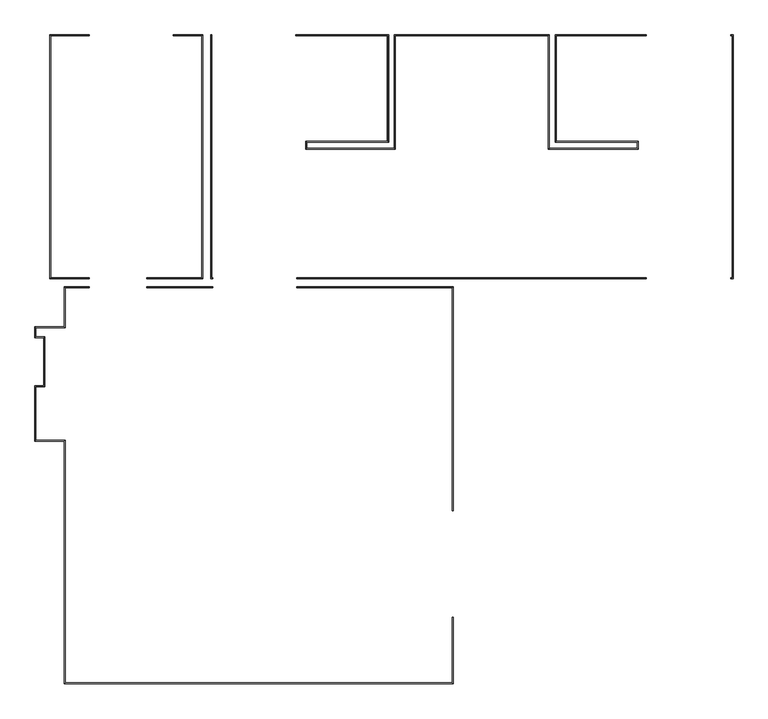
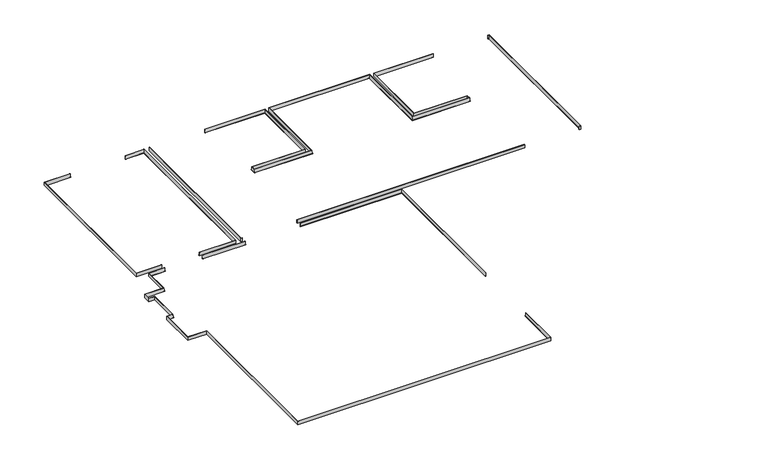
"""IFC4 building model written with IfcOpenShell, lengths in millimetres: furniture geometry, BIMHealth-Cath_Lab-Skirting-LOD2A-v1 : BIMHealth-Cath_Lab-Skirting-LOD2A-v1."""

from ifc_helpers import new_model, si_unit, point, frame, frame_2d, origin, place, context, project, spatial, polyline, circle_curve, ellipse_curve, trimmed, segment, composite_curve, outline, extrude, source, transform, mapped, element, save
from ifc_brep_helpers import plane_surface, revolved_surface, advanced_brep


def furniture_e14fffc2(model_context):
    return source(origin(), model_context, "Body", "SolidModel", [
        extrude(outline(composite_curve([segment(polyline([(1957.9157012, 100.0), (1957.9157012, 0.0), (1937.9157012, 0.0), (1937.9157012, 5.0)]), True, "CONTINUOUS"), segment(trimmed(circle_curve(frame_2d((1706.8593155, 90.1667977)), 246.2527905), [point((1937.9157012, 5.0))], [point((1952.9157012, 100.0))], True, "CARTESIAN"), True, "CONTINUOUS"), segment(polyline([(1952.9157012, 100.0), (1957.9157012, 100.0)]), True, "CONTINUOUS")], self_intersect=False)), frame((-4187.3290413, 0.0, 0.0), z_axis=(1.0, 0.0, 0.0), x_axis=(0.0, 1.0, 0.0)), (0.0, 0.0, 1.0), 1239.7999718),
        advanced_brep(
        [(1567.4707298, -4243.7053034, 100.0), (1567.4707298, -4243.7053034, 0.0), (1547.4707298, -4243.7053034, 0.0), (1547.4707298, -4243.7053034, 5.0), (1562.4707298, -4243.7053034, 100.0), (1562.4707298, -5487.0843802, 100.0), (-5727.3290413, -5487.0843802, 100.0), (-5727.3290413, -937.0833362, 100.0), (-6277.5290696, -937.0833362, 100.0), (-6277.5290696, 92.7162123, 100.0), (-6109.5290696, 92.7162123, 100.0), (-6109.5290696, 1002.7162123, 100.0), (-6277.5290696, 1002.7162123, 100.0), (-6277.5290696, 1202.7162123, 100.0), (-5727.3290413, 1202.7162123, 100.0), (-5727.3290413, 1952.9157012, 100.0), (-5267.3290413, 1952.9157012, 100.0), (-5267.3290413, 1957.9157012, 100.0), (-5732.3290413, 1957.9157012, 100.0), (-5732.3290413, 1207.7162123, 100.0), (-6282.5290696, 1207.7162123, 100.0), (-6282.5290696, 997.7162123, 100.0), (-6114.5290696, 997.7162123, 100.0), (-6114.5290696, 97.7162123, 100.0), (-6282.5290696, 97.7162123, 100.0), (-6282.5290696, -942.0833362, 100.0), (-5732.3290413, -942.0833362, 100.0), (-5732.3290413, -5492.0843802, 100.0), (1567.4707298, -5492.0843802, 100.0), (1547.4707298, -5472.0843802, 5.0), (1547.4707298, -5472.0843802, 0.0), (1567.4707298, -5492.0843802, 0.0), (-5732.3290413, -5492.0843802, 0.0), (-5732.3290413, -942.0833362, 0.0), (-6282.5290696, -942.0833362, 0.0), (-6282.5290696, 97.7162123, 0.0), (-6114.5290696, 97.7162123, 0.0), (-6114.5290696, 997.7162123, 0.0), (-6282.5290696, 997.7162123, 0.0), (-6282.5290696, 1207.7162123, 0.0), (-5732.3290413, 1207.7162123, 0.0), (-5732.3290413, 1957.9157012, 0.0), (-5267.3290413, 1957.9157012, 0.0), (-5267.3290413, 1937.9157012, 0.0), (-5712.3290413, 1937.9157012, 0.0), (-5712.3290413, 1187.7162123, 0.0), (-6262.5290696, 1187.7162123, 0.0), (-6262.5290696, 1017.7162123, 0.0), (-6094.5290696, 1017.7162123, 0.0), (-6094.5290696, 77.7162123, 0.0), (-6262.5290696, 77.7162123, 0.0), (-6262.5290696, -922.0833362, 0.0), (-5712.3290413, -922.0833362, 0.0), (-5712.3290413, -5472.0843802, 0.0), (-5712.3290413, -5472.0843802, 5.0), (-5712.3290413, -922.0833362, 5.0), (-6262.5290696, -922.0833362, 5.0), (-6262.5290696, 77.7162123, 5.0), (-6094.5290696, 77.7162123, 5.0), (-6094.5290696, 1017.7162123, 5.0), (-6262.5290696, 1017.7162123, 5.0), (-6262.5290696, 1187.7162123, 5.0), (-5712.3290413, 1187.7162123, 5.0), (-5712.3290413, 1937.9157012, 5.0), (-5267.3290413, 1937.9157012, 5.0)],
        [
            (0, 1),
            (1, 2),
            (2, 3),
            (3, 4, circle_curve(frame((1316.4143441, -4243.7053034, 90.1667977), z_axis=(0.0, -1.0, 0.0), x_axis=(-1.0, 0.0, 0.0)), 246.2527905)),
            (4, 0),
            (4, 5),
            (5, 6),
            (6, 7),
            (7, 8),
            (8, 9),
            (9, 10),
            (10, 11),
            (11, 12),
            (12, 13),
            (13, 14),
            (14, 15),
            (15, 16),
            (16, 17),
            (17, 18),
            (18, 19),
            (19, 20),
            (20, 21),
            (21, 22),
            (22, 23),
            (23, 24),
            (24, 25),
            (25, 26),
            (26, 27),
            (27, 28),
            (28, 0),
            (3, 29),
            (29, 5, ellipse_curve(frame((1316.4143441, -5241.0279945, 90.1667977), z_axis=(-0.7071067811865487, -0.7071067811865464, 0.0), x_axis=(0.7071067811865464, -0.7071067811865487, 0.0)), 348.2540361, 246.2527905)),
            (2, 30),
            (30, 29),
            (1, 31),
            (31, 32),
            (32, 33),
            (33, 34),
            (34, 35),
            (35, 36),
            (36, 37),
            (37, 38),
            (38, 39),
            (39, 40),
            (40, 41),
            (41, 42),
            (42, 43),
            (43, 44),
            (44, 45),
            (45, 46),
            (46, 47),
            (47, 48),
            (48, 49),
            (49, 50),
            (50, 51),
            (51, 52),
            (52, 53),
            (53, 30),
            (28, 31),
            (29, 54),
            (54, 6, ellipse_curve(frame((-5481.2726556, -5241.0279945, 90.1667977), z_axis=(-0.7071067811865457, 0.7071067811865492, 0.0), x_axis=(-0.7071067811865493, -0.7071067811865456, 0.0)), 348.2540361, 246.2527905)),
            (53, 54),
            (27, 32),
            (54, 55),
            (55, 7, ellipse_curve(frame((-5481.2726556, -691.0269505, 90.1667977), z_axis=(-0.7071067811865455, 0.7071067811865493, 0.0), x_axis=(0.7071067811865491, 0.7071067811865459, 0.0)), 348.2540361, 246.2527905)),
            (52, 55),
            (26, 33),
            (55, 56),
            (56, 8, ellipse_curve(frame((-6031.4726838, -691.0269505, 90.1667977), z_axis=(-0.7071067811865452, 0.7071067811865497, 0.0), x_axis=(-0.7071067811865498, -0.7071067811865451, 0.0)), 348.2540361, 246.2527905)),
            (51, 56),
            (25, 34),
            (56, 57),
            (57, 9, ellipse_curve(frame((-6031.4726838, -153.3401734, 90.1667977), z_axis=(0.7071067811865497, 0.7071067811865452, 0.0), x_axis=(-0.7071067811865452, 0.7071067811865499, 0.0)), 348.2540361, 246.2527905)),
            (50, 57),
            (24, 35),
            (57, 58),
            (58, 10, ellipse_curve(frame((-5863.4726838, -153.3401734, 90.1667977), z_axis=(0.7071067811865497, 0.7071067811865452, 0.0), x_axis=(0.7071067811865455, -0.7071067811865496, 0.0)), 348.2540361, 246.2527905)),
            (49, 58),
            (23, 36),
            (58, 59),
            (59, 11, ellipse_curve(frame((-5863.4726838, 1248.772598, 90.1667977), z_axis=(-0.7071067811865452, 0.7071067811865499, 0.0), x_axis=(0.7071067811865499, 0.7071067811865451, 0.0)), 348.2540361, 246.2527905)),
            (48, 59),
            (22, 37),
            (59, 60),
            (60, 12, ellipse_curve(frame((-6031.4726838, 1248.772598, 90.1667977), z_axis=(-0.707106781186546, 0.7071067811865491, 0.0), x_axis=(-0.7071067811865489, -0.7071067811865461, 0.0)), 348.2540361, 246.2527905)),
            (47, 60),
            (21, 38),
            (60, 61),
            (61, 13, ellipse_curve(frame((-6031.4726838, 956.6598266, 90.1667977), z_axis=(0.707106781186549, 0.707106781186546, 0.0), x_axis=(-0.707106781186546, 0.707106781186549, 0.0)), 348.2540361, 246.2527905)),
            (46, 61),
            (20, 39),
            (61, 62),
            (62, 14, ellipse_curve(frame((-5481.2726556, 956.6598266, 90.1667977), z_axis=(0.7071067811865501, 0.7071067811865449, 0.0), x_axis=(0.7071067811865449, -0.70710678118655, 0.0)), 348.2540361, 246.2527905)),
            (45, 62),
            (19, 40),
            (62, 63),
            (63, 15, ellipse_curve(frame((-5481.2726556, 1706.8593155, 90.1667977), z_axis=(0.7071067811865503, 0.7071067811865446, 0.0), x_axis=(-0.7071067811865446, 0.7071067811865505, 0.0)), 348.2540361, 246.2527905)),
            (44, 63),
            (18, 41),
            (16, 64, circle_curve(frame((-5267.3290413, 1706.8593155, 90.1667977), z_axis=(-1.0, 0.0, 0.0), x_axis=(0.0, -1.0, 0.0)), 246.2527905)),
            (64, 43),
            (42, 17),
            (63, 64),
        ],
        [
            plane_surface(frame((1567.4707298, -4243.7053034, 0.0), z_axis=(0.0, 1.0, 0.0), x_axis=(0.0, 0.0, 1.0))),
            plane_surface(frame((1562.4707298, -4243.7053034, 100.0), z_axis=(0.0, 0.0, 1.0), x_axis=(0.0, -1.0, 0.0))),
            revolved_surface(polyline([(1070.1615536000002, -5487.280785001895, 90.1667977), (1070.1615536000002, -4243.7053034, 90.1667977)]), (1316.4143441, -4243.7053034, 90.1667977), (0.0, -1.0, 0.0)),
            plane_surface(frame((1547.4707298, -4243.7053034, 0.0), z_axis=(-1.0, 0.0, 0.0), x_axis=(0.0, -1.0, 0.0))),
            plane_surface(frame((1567.4707298, -4243.7053034, 0.0), z_axis=(0.0, 0.0, -1.0), x_axis=(0.0, -1.0, 0.0))),
            plane_surface(frame((1567.4707298, -4243.7053034, 100.0), z_axis=(1.0, 0.0, 0.0), x_axis=(0.0, -1.0, 0.0))),
            revolved_surface(polyline([(-5727.525446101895, -4994.7752040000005, 90.1667977), (1562.6671346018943, -4994.7752040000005, 90.1667977)]), (1567.4707298, -5241.0279945, 90.1667977), (-1.0, 0.0, 0.0)),
            plane_surface(frame((1547.4707298, -5472.0843802, 0.0), z_axis=(0.0, 1.0, 0.0), x_axis=(-1.0, 0.0, 0.0))),
            plane_surface(frame((1567.4707298, -5492.0843802, 100.0), z_axis=(0.0, -1.0, 0.0), x_axis=(-1.0, 0.0, 0.0))),
            revolved_surface(polyline([(-5235.0198651, -444.77415999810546, 90.1667977), (-5235.0198651, -5487.280785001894, 90.1667977)]), (-5481.2726556, -5492.0843802, 90.1667977), (0.0, 1.0, 0.0)),
            plane_surface(frame((-5712.3290413, -5472.0843802, 0.0), z_axis=(1.0, 0.0, 0.0), x_axis=(0.0, 1.0, 0.0))),
            plane_surface(frame((-5732.3290413, -5492.0843802, 100.0), z_axis=(-1.0, 0.0, 0.0), x_axis=(0.0, 1.0, 0.0))),
            revolved_surface(polyline([(-6277.725474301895, -444.77416, 90.1667977), (-5235.019865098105, -444.77416, 90.1667977)]), (-5732.3290413, -691.0269505, 90.1667977), (-1.0, 0.0, 0.0)),
            plane_surface(frame((-5712.3290413, -922.0833362, 0.0), z_axis=(0.0, 1.0, 0.0), x_axis=(-1.0, 0.0, 0.0))),
            plane_surface(frame((-5732.3290413, -942.0833362, 100.0), z_axis=(0.0, -1.0, 0.0), x_axis=(-1.0, 0.0, 0.0))),
            revolved_surface(polyline([(-5785.2198933, 92.91261710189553, 90.1667977), (-5785.2198933, -937.2797410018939, 90.1667977)]), (-6031.4726838, -942.0833362, 90.1667977), (0.0, 1.0, 0.0)),
            plane_surface(frame((-6262.5290696, -922.0833362, 0.0), z_axis=(1.0, 0.0, 0.0), x_axis=(0.0, 1.0, 0.0))),
            plane_surface(frame((-6282.5290696, -942.0833362, 100.0), z_axis=(-1.0, 0.0, 0.0), x_axis=(0.0, 1.0, 0.0))),
            revolved_surface(polyline([(-5617.2198932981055, -399.5929639, 90.1667977), (-6277.725474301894, -399.5929639, 90.1667977)]), (-6282.5290696, -153.3401734, 90.1667977), (1.0, 0.0, 0.0)),
            plane_surface(frame((-6262.5290696, 77.7162123, 0.0), z_axis=(0.0, -1.0, 0.0), x_axis=(1.0, 0.0, 0.0))),
            plane_surface(frame((-6282.5290696, 97.7162123, 100.0), z_axis=(0.0, 1.0, 0.0), x_axis=(1.0, 0.0, 0.0))),
            revolved_surface(polyline([(-5617.2198933, 1495.025388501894, 90.1667977), (-5617.2198933, -399.5929639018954, 90.1667977)]), (-5863.4726838, 97.7162123, 90.1667977), (0.0, 1.0, 0.0)),
            plane_surface(frame((-6094.5290696, 77.7162123, 0.0), z_axis=(1.0, 0.0, 0.0), x_axis=(0.0, 1.0, 0.0))),
            plane_surface(frame((-6114.5290696, 97.7162123, 100.0), z_axis=(-1.0, 0.0, 0.0), x_axis=(0.0, 1.0, 0.0))),
            revolved_surface(polyline([(-6277.725474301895, 1495.0253885, 90.1667977), (-5617.219893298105, 1495.0253885, 90.1667977)]), (-6114.5290696, 1248.772598, 90.1667977), (-1.0, 0.0, 0.0)),
            plane_surface(frame((-6094.5290696, 1017.7162123, 0.0), z_axis=(0.0, 1.0, 0.0), x_axis=(-1.0, 0.0, 0.0))),
            plane_surface(frame((-6114.5290696, 997.7162123, 100.0), z_axis=(0.0, -1.0, 0.0), x_axis=(-1.0, 0.0, 0.0))),
            revolved_surface(polyline([(-5785.2198933, 1495.0253885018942, 90.1667977), (-5785.2198933, 710.4070360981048, 90.1667977)]), (-6031.4726838, 997.7162123, 90.1667977), (0.0, 1.0, 0.0)),
            plane_surface(frame((-6262.5290696, 1017.7162123, 0.0), z_axis=(1.0, 0.0, 0.0), x_axis=(0.0, 1.0, 0.0))),
            plane_surface(frame((-6282.5290696, 997.7162123, 100.0), z_axis=(-1.0, 0.0, 0.0), x_axis=(0.0, 1.0, 0.0))),
            revolved_surface(polyline([(-5235.019865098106, 710.4070360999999, 90.1667977), (-6277.725474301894, 710.4070360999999, 90.1667977)]), (-6282.5290696, 956.6598266, 90.1667977), (1.0, 0.0, 0.0)),
            plane_surface(frame((-6262.5290696, 1187.7162123, 0.0), z_axis=(0.0, -1.0, 0.0), x_axis=(1.0, 0.0, 0.0))),
            plane_surface(frame((-6282.5290696, 1207.7162123, 100.0), z_axis=(0.0, 1.0, 0.0), x_axis=(1.0, 0.0, 0.0))),
            revolved_surface(polyline([(-5235.0198651, 1953.1121060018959, 90.1667977), (-5235.0198651, 710.4070360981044, 90.1667977)]), (-5481.2726556, 1207.7162123, 90.1667977), (0.0, 1.0, 0.0)),
            plane_surface(frame((-5712.3290413, 1187.7162123, 0.0), z_axis=(1.0, 0.0, 0.0), x_axis=(0.0, 1.0, 0.0))),
            plane_surface(frame((-5732.3290413, 1207.7162123, 100.0), z_axis=(-1.0, 0.0, 0.0), x_axis=(0.0, 1.0, 0.0))),
            plane_surface(frame((-5267.3290413, 1957.9157012, 0.0), z_axis=(1.0, 0.0, 0.0), x_axis=(0.0, 0.0, 1.0))),
            revolved_surface(polyline([(-5235.019865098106, 1460.6065250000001, 90.1667977), (-5727.525446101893, 1460.6065250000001, 90.1667977)]), (-5732.3290413, 1706.8593155, 90.1667977), (1.0, 0.0, 0.0)),
            plane_surface(frame((-5712.3290413, 1937.9157012, 0.0), z_axis=(0.0, -1.0, 0.0), x_axis=(1.0, 0.0, 0.0))),
            plane_surface(frame((-5732.3290413, 1957.9157012, 100.0), z_axis=(0.0, 1.0, 0.0), x_axis=(1.0, 0.0, 0.0))),
        ],
        [
            (0, [[1, 2, 3, 4, 5]]),
            (1, [[-5, 6, 7, 8, 9, 10, 11, 12, 13, 14, 15, 16, 17, 18, 19, 20, 21, 22, 23, 24, 25, 26, 27, 28, 29, 30]]),
            (2, [[-4, 31, 32, -6]]),
            (3, [[-3, 33, 34, -31]]),
            (4, [[-2, 35, 36, 37, 38, 39, 40, 41, 42, 43, 44, 45, 46, 47, 48, 49, 50, 51, 52, 53, 54, 55, 56, 57, 58, -33]]),
            (5, [[-1, -30, 59, -35]]),
            (6, [[-32, 60, 61, -7]]),
            (7, [[-34, -58, 62, -60]]),
            (8, [[-59, -29, 63, -36]]),
            (9, [[-61, 64, 65, -8]]),
            (10, [[-62, -57, 66, -64]]),
            (11, [[-63, -28, 67, -37]]),
            (12, [[-65, 68, 69, -9]]),
            (13, [[-66, -56, 70, -68]]),
            (14, [[-67, -27, 71, -38]]),
            (15, [[-69, 72, 73, -10]]),
            (16, [[-70, -55, 74, -72]]),
            (17, [[-71, -26, 75, -39]]),
            (18, [[-73, 76, 77, -11]]),
            (19, [[-74, -54, 78, -76]]),
            (20, [[-75, -25, 79, -40]]),
            (21, [[-77, 80, 81, -12]]),
            (22, [[-78, -53, 82, -80]]),
            (23, [[-79, -24, 83, -41]]),
            (24, [[-81, 84, 85, -13]]),
            (25, [[-82, -52, 86, -84]]),
            (26, [[-83, -23, 87, -42]]),
            (27, [[-85, 88, 89, -14]]),
            (28, [[-86, -51, 90, -88]]),
            (29, [[-87, -22, 91, -43]]),
            (30, [[-89, 92, 93, -15]]),
            (31, [[-90, -50, 94, -92]]),
            (32, [[-91, -21, 95, -44]]),
            (33, [[-93, 96, 97, -16]]),
            (34, [[-94, -49, 98, -96]]),
            (35, [[-95, -20, 99, -45]]),
            (36, [[-18, 100, 101, -47, 102]]),
            (37, [[-97, 103, -100, -17]]),
            (38, [[-98, -48, -101, -103]]),
            (39, [[-99, -19, -102, -46]]),
        ],
    ),
        advanced_brep(
        [(-1367.5290696, 1957.9157012, 100.0), (-1367.5290696, 1957.9157012, 0.0), (-1367.5290696, 1937.9157012, 0.0), (-1367.5290696, 1937.9157012, 5.0), (-1367.5290696, 1952.9157012, 100.0), (1562.4709304, 1952.9157012, 100.0), (1562.4709304, -2242.0837971, 100.0), (1567.4709304, -2242.0837971, 100.0), (1567.4709304, 1957.9157012, 100.0), (1547.4709304, 1937.9157012, 5.0), (1547.4709304, 1937.9157012, 0.0), (1567.4709304, 1957.9157012, 0.0), (1567.4709304, -2242.0837971, 0.0), (1547.4709304, -2242.0837971, 0.0), (1547.4709304, -2242.0837971, 5.0)],
        [
            (0, 1),
            (1, 2),
            (2, 3),
            (3, 4, circle_curve(frame((-1367.5290696, 1706.8593155, 90.1667977), z_axis=(1.0, 0.0, 0.0), x_axis=(0.0, -1.0, 0.0)), 246.2527905)),
            (4, 0),
            (4, 5),
            (5, 6),
            (6, 7),
            (7, 8),
            (8, 0),
            (3, 9),
            (9, 5, ellipse_curve(frame((1316.4145447, 1706.8593155, 90.1667977), z_axis=(0.7071067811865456, -0.7071067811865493, 0.0), x_axis=(0.7071067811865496, 0.7071067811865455, 0.0)), 348.2540361, 246.2527905)),
            (2, 10),
            (10, 9),
            (1, 11),
            (11, 12),
            (12, 13),
            (13, 10),
            (8, 11),
            (6, 14, circle_curve(frame((1316.4145447, -2242.0837971, 90.1667977), z_axis=(0.0, 1.0, 0.0), x_axis=(-1.0, 0.0, 0.0)), 246.2527905)),
            (14, 13),
            (12, 7),
            (9, 14),
        ],
        [
            plane_surface(frame((-1367.5290696, 1957.9157012, 0.0), z_axis=(-1.0, 0.0, 0.0), x_axis=(0.0, 0.0, 1.0))),
            plane_surface(frame((-1367.5290696, 1952.9157012, 100.0), z_axis=(0.0, 0.0, 1.0), x_axis=(1.0, 0.0, 0.0))),
            revolved_surface(polyline([(1562.6673352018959, 1460.6065250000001, 90.1667977), (-1367.5290696, 1460.6065250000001, 90.1667977)]), (-1367.5290696, 1706.8593155, 90.1667977), (1.0, 0.0, 0.0)),
            plane_surface(frame((-1367.5290696, 1937.9157012, 0.0), z_axis=(0.0, -1.0, 0.0), x_axis=(1.0, 0.0, 0.0))),
            plane_surface(frame((-1367.5290696, 1957.9157012, 0.0), z_axis=(0.0, 0.0, -1.0), x_axis=(1.0, 0.0, 0.0))),
            plane_surface(frame((-1367.5290696, 1957.9157012, 100.0), z_axis=(0.0, 1.0, 0.0), x_axis=(1.0, 0.0, 0.0))),
            plane_surface(frame((1567.4709304, -2242.0837971, 0.0), z_axis=(0.0, -1.0, 0.0), x_axis=(0.0, 0.0, 1.0))),
            revolved_surface(polyline([(1070.1617542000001, -2242.0837970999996, 90.1667977), (1070.1617542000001, 1953.112106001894, 90.1667977)]), (1316.4145447, 1957.9157012, 90.1667977), (0.0, -1.0, 0.0)),
            plane_surface(frame((1547.4709304, 1937.9157012, 0.0), z_axis=(-1.0, 0.0, 0.0), x_axis=(0.0, -1.0, 0.0))),
            plane_surface(frame((1567.4709304, 1957.9157012, 100.0), z_axis=(1.0, 0.0, 0.0), x_axis=(0.0, -1.0, 0.0))),
        ],
        [
            (0, [[1, 2, 3, 4, 5]]),
            (1, [[-5, 6, 7, 8, 9, 10]]),
            (2, [[-4, 11, 12, -6]]),
            (3, [[-3, 13, 14, -11]]),
            (4, [[-2, 15, 16, 17, 18, -13]]),
            (5, [[-1, -10, 19, -15]]),
            (6, [[-8, 20, 21, -17, 22]]),
            (7, [[-12, 23, -20, -7]]),
            (8, [[-14, -18, -21, -23]]),
            (9, [[-19, -9, -22, -16]]),
        ],
    ),
        extrude(outline(composite_curve([segment(polyline([(2107.9157012, 100.0), (2112.9157012, 100.0)]), True, "CONTINUOUS"), segment(trimmed(circle_curve(frame_2d((2358.9720869, 90.1667977)), 246.2527905), [point((2112.9157012, 100.0))], [point((2127.9157012, 5.0))], True, "CARTESIAN"), True, "CONTINUOUS"), segment(polyline([(2127.9157012, 5.0), (2127.9157012, 0.0), (2107.9157012, 0.0), (2107.9157012, 100.0)]), True, "CONTINUOUS")], self_intersect=False)), frame((-1367.5290696, 0.0, 0.0), z_axis=(1.0, 0.0, 0.0), x_axis=(0.0, 1.0, 0.0)), (0.0, 0.0, 1.0), 6560.0),
        advanced_brep(
        [(6772.4709304, 6682.9160366, 100.0), (6772.4709304, 6682.9160366, 0.0), (6772.4709304, 6662.9160366, 0.0), (6772.4709304, 6662.9160366, 5.0), (6772.4709304, 6677.9160366, 100.0), (6812.4709304, 6677.9160366, 100.0), (6812.4709304, 2112.9157012, 100.0), (6772.4709304, 2112.9157012, 100.0), (6772.4709304, 2107.9157012, 100.0), (6817.4709304, 2107.9157012, 100.0), (6817.4709304, 6682.9160366, 100.0), (6797.4709304, 6662.9160366, 5.0), (6797.4709304, 6662.9160366, 0.0), (6817.4709304, 6682.9160366, 0.0), (6817.4709304, 2107.9157012, 0.0), (6772.4709304, 2107.9157012, 0.0), (6772.4709304, 2127.9157012, 0.0), (6797.4709304, 2127.9157012, 0.0), (6797.4709304, 2127.9157012, 5.0), (6772.4709304, 2127.9157012, 5.0)],
        [
            (0, 1),
            (1, 2),
            (2, 3),
            (3, 4, circle_curve(frame((6772.4709304, 6431.8596509, 90.1667977), z_axis=(1.0, 0.0, 0.0), x_axis=(0.0, -1.0, 0.0)), 246.2527905)),
            (4, 0),
            (4, 5),
            (5, 6),
            (6, 7),
            (7, 8),
            (8, 9),
            (9, 10),
            (10, 0),
            (3, 11),
            (11, 5, ellipse_curve(frame((6566.4145447, 6431.8596509, 90.1667977), z_axis=(0.7071067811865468, -0.7071067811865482, 0.0), x_axis=(0.7071067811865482, 0.7071067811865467, 0.0)), 348.2540361, 246.2527905)),
            (2, 12),
            (12, 11),
            (1, 13),
            (13, 14),
            (14, 15),
            (15, 16),
            (16, 17),
            (17, 12),
            (10, 13),
            (11, 18),
            (18, 6, ellipse_curve(frame((6566.4145447, 2358.9720869, 90.1667977), z_axis=(-0.7071067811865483, -0.7071067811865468, 0.0), x_axis=(0.7071067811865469, -0.7071067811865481, 0.0)), 348.2540361, 246.2527905)),
            (17, 18),
            (9, 14),
            (7, 19, circle_curve(frame((6772.4709304, 2358.9720869, 90.1667977), z_axis=(1.0, 0.0, 0.0), x_axis=(0.0, 1.0, 0.0)), 246.2527905)),
            (19, 16),
            (15, 8),
            (18, 19),
        ],
        [
            plane_surface(frame((6772.4709304, 6682.9160366, 0.0), z_axis=(-1.0, 0.0, 0.0), x_axis=(0.0, 0.0, 1.0))),
            plane_surface(frame((6772.4709304, 6677.9160366, 100.0), z_axis=(0.0, 0.0, 1.0), x_axis=(1.0, 0.0, 0.0))),
            revolved_surface(polyline([(6812.667335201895, 6185.6068604, 90.1667977), (6320.161754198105, 6185.6068604, 90.1667977)]), (6772.4709304, 6431.8596509, 90.1667977), (1.0, 0.0, 0.0)),
            plane_surface(frame((6772.4709304, 6662.9160366, 0.0), z_axis=(0.0, -1.0, 0.0), x_axis=(1.0, 0.0, 0.0))),
            plane_surface(frame((6772.4709304, 6682.9160366, 0.0), z_axis=(0.0, 0.0, -1.0), x_axis=(1.0, 0.0, 0.0))),
            plane_surface(frame((6772.4709304, 6682.9160366, 100.0), z_axis=(0.0, 1.0, 0.0), x_axis=(1.0, 0.0, 0.0))),
            revolved_surface(polyline([(6320.1617542, 2112.7192963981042, 90.1667977), (6320.1617542, 6678.112441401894, 90.1667977)]), (6566.4145447, 6682.9160366, 90.1667977), (0.0, -1.0, 0.0)),
            plane_surface(frame((6797.4709304, 6662.9160366, 0.0), z_axis=(-1.0, 0.0, 0.0), x_axis=(0.0, -1.0, 0.0))),
            plane_surface(frame((6817.4709304, 6682.9160366, 100.0), z_axis=(1.0, 0.0, 0.0), x_axis=(0.0, -1.0, 0.0))),
            plane_surface(frame((6772.4709304, 2107.9157012, 0.0), z_axis=(-1.0, 0.0, 0.0), x_axis=(0.0, 0.0, 1.0))),
            revolved_surface(polyline([(6320.161754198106, 2605.2248774, 90.1667977), (6812.667335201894, 2605.2248774, 90.1667977)]), (6817.4709304, 2358.9720869, 90.1667977), (-1.0, 0.0, 0.0)),
            plane_surface(frame((6797.4709304, 2127.9157012, 0.0), z_axis=(0.0, 1.0, 0.0), x_axis=(-1.0, 0.0, 0.0))),
            plane_surface(frame((6817.4709304, 2107.9157012, 100.0), z_axis=(0.0, -1.0, 0.0), x_axis=(-1.0, 0.0, 0.0))),
        ],
        [
            (0, [[1, 2, 3, 4, 5]]),
            (1, [[-5, 6, 7, 8, 9, 10, 11, 12]]),
            (2, [[-4, 13, 14, -6]]),
            (3, [[-3, 15, 16, -13]]),
            (4, [[-2, 17, 18, 19, 20, 21, 22, -15]]),
            (5, [[-1, -12, 23, -17]]),
            (6, [[-14, 24, 25, -7]]),
            (7, [[-16, -22, 26, -24]]),
            (8, [[-23, -11, 27, -18]]),
            (9, [[-9, 28, 29, -20, 30]]),
            (10, [[-25, 31, -28, -8]]),
            (11, [[-26, -21, -29, -31]]),
            (12, [[-27, -10, -30, -19]]),
        ],
    ),
        advanced_brep(
        [(-1392.5287581, 6682.9160366, 100.0), (-1392.5287581, 6682.9160366, 0.0), (-1392.5287581, 6662.9160366, 0.0), (-1392.5287581, 6662.9160366, 5.0), (-1392.5287581, 6677.9160366, 100.0), (347.4712419, 6677.9160366, 100.0), (347.4712419, 4672.9131778, 100.0), (-1187.5290696, 4672.9131778, 100.0), (-1187.5290696, 4552.9131778, 100.0), (467.4712419, 4552.9131778, 100.0), (467.4712419, 6677.9160366, 100.0), (3367.470619, 6677.9160366, 100.0), (3367.470619, 4552.9131778, 100.0), (5022.4709304, 4552.9131778, 100.0), (5022.4709304, 4672.9131778, 100.0), (3487.470619, 4672.9131778, 100.0), (3487.470619, 6677.9160366, 100.0), (5192.4709304, 6677.9160366, 100.0), (5192.4709304, 6682.9160366, 100.0), (3482.470619, 6682.9160366, 100.0), (3482.470619, 4667.9131778, 100.0), (5017.4709304, 4667.9131778, 100.0), (5017.4709304, 4557.9131778, 100.0), (3372.470619, 4557.9131778, 100.0), (3372.470619, 6682.9160366, 100.0), (462.4712419, 6682.9160366, 100.0), (462.4712419, 4557.9131778, 100.0), (-1182.5290696, 4557.9131778, 100.0), (-1182.5290696, 4667.9131778, 100.0), (352.4712419, 4667.9131778, 100.0), (352.4712419, 6682.9160366, 100.0), (332.4712419, 6662.9160366, 5.0), (332.4712419, 6662.9160366, 0.0), (352.4712419, 6682.9160366, 0.0), (352.4712419, 4667.9131778, 0.0), (-1182.5290696, 4667.9131778, 0.0), (-1182.5290696, 4557.9131778, 0.0), (462.4712419, 4557.9131778, 0.0), (462.4712419, 6682.9160366, 0.0), (3372.470619, 6682.9160366, 0.0), (3372.470619, 4557.9131778, 0.0), (5017.4709304, 4557.9131778, 0.0), (5017.4709304, 4667.9131778, 0.0), (3482.470619, 4667.9131778, 0.0), (3482.470619, 6682.9160366, 0.0), (5192.4709304, 6682.9160366, 0.0), (5192.4709304, 6662.9160366, 0.0), (3502.470619, 6662.9160366, 0.0), (3502.470619, 4687.9131778, 0.0), (5037.4709304, 4687.9131778, 0.0), (5037.4709304, 4537.9131778, 0.0), (3352.470619, 4537.9131778, 0.0), (3352.470619, 6662.9160366, 0.0), (482.4712419, 6662.9160366, 0.0), (482.4712419, 4537.9131778, 0.0), (-1202.5290696, 4537.9131778, 0.0), (-1202.5290696, 4687.9131778, 0.0), (332.4712419, 4687.9131778, 0.0), (332.4712419, 4687.9131778, 5.0), (-1202.5290696, 4687.9131778, 5.0), (-1202.5290696, 4537.9131778, 5.0), (482.4712419, 4537.9131778, 5.0), (482.4712419, 6662.9160366, 5.0), (3352.470619, 6662.9160366, 5.0), (3352.470619, 4537.9131778, 5.0), (5037.4709304, 4537.9131778, 5.0), (5037.4709304, 4687.9131778, 5.0), (3502.470619, 4687.9131778, 5.0), (3502.470619, 6662.9160366, 5.0), (5192.4709304, 6662.9160366, 5.0)],
        [
            (0, 1),
            (1, 2),
            (2, 3),
            (3, 4, circle_curve(frame((-1392.5287581, 6431.8596509, 90.1667977), z_axis=(1.0, 0.0, 0.0), x_axis=(0.0, -1.0, 0.0)), 246.2527905)),
            (4, 0),
            (4, 5),
            (5, 6),
            (6, 7),
            (7, 8),
            (8, 9),
            (9, 10),
            (10, 11),
            (11, 12),
            (12, 13),
            (13, 14),
            (14, 15),
            (15, 16),
            (16, 17),
            (17, 18),
            (18, 19),
            (19, 20),
            (20, 21),
            (21, 22),
            (22, 23),
            (23, 24),
            (24, 25),
            (25, 26),
            (26, 27),
            (27, 28),
            (28, 29),
            (29, 30),
            (30, 0),
            (3, 31),
            (31, 5, ellipse_curve(frame((101.4148562, 6431.8596509, 90.1667977), z_axis=(0.7071067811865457, -0.7071067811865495, 0.0), x_axis=(0.7071067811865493, 0.7071067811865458, 0.0)), 348.2540361, 246.2527905)),
            (2, 32),
            (32, 31),
            (1, 33),
            (33, 34),
            (34, 35),
            (35, 36),
            (36, 37),
            (37, 38),
            (38, 39),
            (39, 40),
            (40, 41),
            (41, 42),
            (42, 43),
            (43, 44),
            (44, 45),
            (45, 46),
            (46, 47),
            (47, 48),
            (48, 49),
            (49, 50),
            (50, 51),
            (51, 52),
            (52, 53),
            (53, 54),
            (54, 55),
            (55, 56),
            (56, 57),
            (57, 32),
            (30, 33),
            (31, 58),
            (58, 6, ellipse_curve(frame((101.4148562, 4918.9695635, 90.1667977), z_axis=(-0.7071067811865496, -0.7071067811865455, 0.0), x_axis=(0.7071067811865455, -0.7071067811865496, 0.0)), 348.2540361, 246.2527905)),
            (57, 58),
            (29, 34),
            (58, 59),
            (59, 7, ellipse_curve(frame((-1433.5854553, 4918.9695635, 90.1667977), z_axis=(-0.7071067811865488, -0.7071067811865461, 0.0), x_axis=(-0.7071067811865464, 0.7071067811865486, 0.0)), 348.2540361, 246.2527905)),
            (56, 59),
            (28, 35),
            (59, 60),
            (60, 8, ellipse_curve(frame((-1433.5854553, 4306.8567921, 90.1667977), z_axis=(0.7071067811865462, -0.7071067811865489, 0.0), x_axis=(-0.707106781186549, -0.707106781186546, 0.0)), 348.2540361, 246.2527905)),
            (55, 60),
            (27, 36),
            (60, 61),
            (61, 9, ellipse_curve(frame((713.5276276, 4306.8567921, 90.1667977), z_axis=(0.7071067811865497, 0.7071067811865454, 0.0), x_axis=(0.7071067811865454, -0.7071067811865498, 0.0)), 348.2540361, 246.2527905)),
            (54, 61),
            (26, 37),
            (61, 62),
            (62, 10, ellipse_curve(frame((713.5276276, 6431.8596509, 90.1667977), z_axis=(0.7071067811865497, 0.7071067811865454, 0.0), x_axis=(-0.7071067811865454, 0.7071067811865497, 0.0)), 348.2540361, 246.2527905)),
            (53, 62),
            (25, 38),
            (62, 63),
            (63, 11, ellipse_curve(frame((3121.4142332, 6431.8596509, 90.1667977), z_axis=(0.7071067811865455, -0.7071067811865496, 0.0), x_axis=(0.7071067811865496, 0.7071067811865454, 0.0)), 348.2540361, 246.2527905)),
            (52, 63),
            (24, 39),
            (63, 64),
            (64, 12, ellipse_curve(frame((3121.4142332, 4306.8567921, 90.1667977), z_axis=(0.7071067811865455, -0.7071067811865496, 0.0), x_axis=(-0.7071067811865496, -0.7071067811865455, 0.0)), 348.2540361, 246.2527905)),
            (51, 64),
            (23, 40),
            (64, 65),
            (65, 13, ellipse_curve(frame((5268.5273162, 4306.8567921, 90.1667977), z_axis=(0.7071067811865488, 0.7071067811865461, 0.0), x_axis=(0.7071067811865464, -0.7071067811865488, 0.0)), 348.2540361, 246.2527905)),
            (50, 65),
            (22, 41),
            (65, 66),
            (66, 14, ellipse_curve(frame((5268.5273162, 4918.9695635, 90.1667977), z_axis=(-0.7071067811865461, 0.7071067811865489, 0.0), x_axis=(0.7071067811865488, 0.7071067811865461, 0.0)), 348.2540361, 246.2527905)),
            (49, 66),
            (21, 42),
            (66, 67),
            (67, 15, ellipse_curve(frame((3733.5270047, 4918.9695635, 90.1667977), z_axis=(-0.7071067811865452, 0.7071067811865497, 0.0), x_axis=(-0.7071067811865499, -0.7071067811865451, 0.0)), 348.2540361, 246.2527905)),
            (48, 67),
            (20, 43),
            (67, 68),
            (68, 16, ellipse_curve(frame((3733.5270047, 6431.8596509, 90.1667977), z_axis=(0.7071067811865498, 0.7071067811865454, 0.0), x_axis=(-0.7071067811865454, 0.7071067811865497, 0.0)), 348.2540361, 246.2527905)),
            (47, 68),
            (19, 44),
            (17, 69, circle_curve(frame((5192.4709304, 6431.8596509, 90.1667977), z_axis=(-1.0, 0.0, 0.0), x_axis=(0.0, -1.0, 0.0)), 246.2527905)),
            (69, 46),
            (45, 18),
            (68, 69),
        ],
        [
            plane_surface(frame((-1392.5287581, 6682.9160366, 0.0), z_axis=(-1.0, 0.0, 0.0), x_axis=(0.0, 0.0, 1.0))),
            plane_surface(frame((-1392.5287581, 6677.9160366, 100.0), z_axis=(0.0, 0.0, 1.0), x_axis=(1.0, 0.0, 0.0))),
            revolved_surface(polyline([(347.66764670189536, 6185.6068604, 90.1667977), (-1392.5287581, 6185.6068604, 90.1667977)]), (-1392.5287581, 6431.8596509, 90.1667977), (1.0, 0.0, 0.0)),
            plane_surface(frame((-1392.5287581, 6662.9160366, 0.0), z_axis=(0.0, -1.0, 0.0), x_axis=(1.0, 0.0, 0.0))),
            plane_surface(frame((-1392.5287581, 6682.9160366, 0.0), z_axis=(0.0, 0.0, -1.0), x_axis=(1.0, 0.0, 0.0))),
            plane_surface(frame((-1392.5287581, 6682.9160366, 100.0), z_axis=(0.0, 1.0, 0.0), x_axis=(1.0, 0.0, 0.0))),
            revolved_surface(polyline([(-144.8379343, 4672.716772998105, 90.1667977), (-144.8379343, 6678.112441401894, 90.1667977)]), (101.4148562, 6682.9160366, 90.1667977), (0.0, -1.0, 0.0)),
            plane_surface(frame((332.4712419, 6662.9160366, 0.0), z_axis=(-1.0, 0.0, 0.0), x_axis=(0.0, -1.0, 0.0))),
            plane_surface(frame((352.4712419, 6682.9160366, 100.0), z_axis=(1.0, 0.0, 0.0), x_axis=(0.0, -1.0, 0.0))),
            revolved_surface(polyline([(-1679.8382458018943, 5165.2223539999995, 90.1667977), (347.667646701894, 5165.2223539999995, 90.1667977)]), (352.4712419, 4918.9695635, 90.1667977), (-1.0, 0.0, 0.0)),
            plane_surface(frame((332.4712419, 4687.9131778, 0.0), z_axis=(0.0, 1.0, 0.0), x_axis=(-1.0, 0.0, 0.0))),
            plane_surface(frame((352.4712419, 4667.9131778, 100.0), z_axis=(0.0, -1.0, 0.0), x_axis=(-1.0, 0.0, 0.0))),
            revolved_surface(polyline([(-1679.8382457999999, 4060.604001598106, 90.1667977), (-1679.8382457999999, 5165.222354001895, 90.1667977)]), (-1433.5854553, 4667.9131778, 90.1667977), (0.0, -1.0, 0.0)),
            plane_surface(frame((-1202.5290696, 4687.9131778, 0.0), z_axis=(-1.0, 0.0, 0.0), x_axis=(0.0, -1.0, 0.0))),
            plane_surface(frame((-1182.5290696, 4667.9131778, 100.0), z_axis=(1.0, 0.0, 0.0), x_axis=(0.0, -1.0, 0.0))),
            revolved_surface(polyline([(959.7804181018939, 4060.6040016, 90.1667977), (-1679.838245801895, 4060.6040016, 90.1667977)]), (-1182.5290696, 4306.8567921, 90.1667977), (1.0, 0.0, 0.0)),
            plane_surface(frame((-1202.5290696, 4537.9131778, 0.0), z_axis=(0.0, -1.0, 0.0), x_axis=(1.0, 0.0, 0.0))),
            plane_surface(frame((-1182.5290696, 4557.9131778, 100.0), z_axis=(0.0, 1.0, 0.0), x_axis=(1.0, 0.0, 0.0))),
            revolved_surface(polyline([(959.7804180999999, 6678.112441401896, 90.1667977), (959.7804180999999, 4060.604001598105, 90.1667977)]), (713.5276276, 4557.9131778, 90.1667977), (0.0, 1.0, 0.0)),
            plane_surface(frame((482.4712419, 4537.9131778, 0.0), z_axis=(1.0, 0.0, 0.0), x_axis=(0.0, 1.0, 0.0))),
            plane_surface(frame((462.4712419, 4557.9131778, 100.0), z_axis=(-1.0, 0.0, 0.0), x_axis=(0.0, 1.0, 0.0))),
            revolved_surface(polyline([(3367.667023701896, 6185.6068604, 90.1667977), (467.274837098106, 6185.6068604, 90.1667977)]), (462.4712419, 6431.8596509, 90.1667977), (1.0, 0.0, 0.0)),
            plane_surface(frame((482.4712419, 6662.9160366, 0.0), z_axis=(0.0, -1.0, 0.0), x_axis=(1.0, 0.0, 0.0))),
            plane_surface(frame((462.4712419, 6682.9160366, 100.0), z_axis=(0.0, 1.0, 0.0), x_axis=(1.0, 0.0, 0.0))),
            revolved_surface(polyline([(2875.1614427, 4060.604001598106, 90.1667977), (2875.1614427, 6678.112441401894, 90.1667977)]), (3121.4142332, 6682.9160366, 90.1667977), (0.0, -1.0, 0.0)),
            plane_surface(frame((3352.470619, 6662.9160366, 0.0), z_axis=(-1.0, 0.0, 0.0), x_axis=(0.0, -1.0, 0.0))),
            plane_surface(frame((3372.470619, 6682.9160366, 100.0), z_axis=(1.0, 0.0, 0.0), x_axis=(0.0, -1.0, 0.0))),
            revolved_surface(polyline([(5514.7801067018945, 4060.6040016, 90.1667977), (2875.1614426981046, 4060.6040016, 90.1667977)]), (3372.470619, 4306.8567921, 90.1667977), (1.0, 0.0, 0.0)),
            plane_surface(frame((3352.470619, 4537.9131778, 0.0), z_axis=(0.0, -1.0, 0.0), x_axis=(1.0, 0.0, 0.0))),
            plane_surface(frame((3372.470619, 4557.9131778, 100.0), z_axis=(0.0, 1.0, 0.0), x_axis=(1.0, 0.0, 0.0))),
            revolved_surface(polyline([(5514.7801067, 5165.222354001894, 90.1667977), (5514.7801067, 4060.6040015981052, 90.1667977)]), (5268.5273162, 4557.9131778, 90.1667977), (0.0, 1.0, 0.0)),
            plane_surface(frame((5037.4709304, 4537.9131778, 0.0), z_axis=(1.0, 0.0, 0.0), x_axis=(0.0, 1.0, 0.0))),
            plane_surface(frame((5017.4709304, 4557.9131778, 100.0), z_axis=(-1.0, 0.0, 0.0), x_axis=(0.0, 1.0, 0.0))),
            revolved_surface(polyline([(3487.2742141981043, 5165.2223539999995, 90.1667977), (5514.780106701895, 5165.2223539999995, 90.1667977)]), (5017.4709304, 4918.9695635, 90.1667977), (-1.0, 0.0, 0.0)),
            plane_surface(frame((5037.4709304, 4687.9131778, 0.0), z_axis=(0.0, 1.0, 0.0), x_axis=(-1.0, 0.0, 0.0))),
            plane_surface(frame((5017.4709304, 4667.9131778, 100.0), z_axis=(0.0, -1.0, 0.0), x_axis=(-1.0, 0.0, 0.0))),
            revolved_surface(polyline([(3979.7797952, 6678.112441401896, 90.1667977), (3979.7797952, 4672.716772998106, 90.1667977)]), (3733.5270047, 4667.9131778, 90.1667977), (0.0, 1.0, 0.0)),
            plane_surface(frame((3502.470619, 4687.9131778, 0.0), z_axis=(1.0, 0.0, 0.0), x_axis=(0.0, 1.0, 0.0))),
            plane_surface(frame((3482.470619, 4667.9131778, 100.0), z_axis=(-1.0, 0.0, 0.0), x_axis=(0.0, 1.0, 0.0))),
            plane_surface(frame((5192.4709304, 6682.9160366, 0.0), z_axis=(1.0, 0.0, 0.0), x_axis=(0.0, 0.0, 1.0))),
            revolved_surface(polyline([(5192.4709304, 6185.6068604, 90.1667977), (3487.274214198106, 6185.6068604, 90.1667977)]), (3482.470619, 6431.8596509, 90.1667977), (1.0, 0.0, 0.0)),
            plane_surface(frame((3502.470619, 6662.9160366, 0.0), z_axis=(0.0, -1.0, 0.0), x_axis=(1.0, 0.0, 0.0))),
            plane_surface(frame((3482.470619, 6682.9160366, 100.0), z_axis=(0.0, 1.0, 0.0), x_axis=(1.0, 0.0, 0.0))),
        ],
        [
            (0, [[1, 2, 3, 4, 5]]),
            (1, [[-5, 6, 7, 8, 9, 10, 11, 12, 13, 14, 15, 16, 17, 18, 19, 20, 21, 22, 23, 24, 25, 26, 27, 28, 29, 30, 31, 32]]),
            (2, [[-4, 33, 34, -6]]),
            (3, [[-3, 35, 36, -33]]),
            (4, [[-2, 37, 38, 39, 40, 41, 42, 43, 44, 45, 46, 47, 48, 49, 50, 51, 52, 53, 54, 55, 56, 57, 58, 59, 60, 61, 62, -35]]),
            (5, [[-1, -32, 63, -37]]),
            (6, [[-34, 64, 65, -7]]),
            (7, [[-36, -62, 66, -64]]),
            (8, [[-63, -31, 67, -38]]),
            (9, [[-65, 68, 69, -8]]),
            (10, [[-66, -61, 70, -68]]),
            (11, [[-67, -30, 71, -39]]),
            (12, [[-69, 72, 73, -9]]),
            (13, [[-70, -60, 74, -72]]),
            (14, [[-71, -29, 75, -40]]),
            (15, [[-73, 76, 77, -10]]),
            (16, [[-74, -59, 78, -76]]),
            (17, [[-75, -28, 79, -41]]),
            (18, [[-77, 80, 81, -11]]),
            (19, [[-78, -58, 82, -80]]),
            (20, [[-79, -27, 83, -42]]),
            (21, [[-81, 84, 85, -12]]),
            (22, [[-82, -57, 86, -84]]),
            (23, [[-83, -26, 87, -43]]),
            (24, [[-85, 88, 89, -13]]),
            (25, [[-86, -56, 90, -88]]),
            (26, [[-87, -25, 91, -44]]),
            (27, [[-89, 92, 93, -14]]),
            (28, [[-90, -55, 94, -92]]),
            (29, [[-91, -24, 95, -45]]),
            (30, [[-93, 96, 97, -15]]),
            (31, [[-94, -54, 98, -96]]),
            (32, [[-95, -23, 99, -46]]),
            (33, [[-97, 100, 101, -16]]),
            (34, [[-98, -53, 102, -100]]),
            (35, [[-99, -22, 103, -47]]),
            (36, [[-101, 104, 105, -17]]),
            (37, [[-102, -52, 106, -104]]),
            (38, [[-103, -21, 107, -48]]),
            (39, [[-19, 108, 109, -50, 110]]),
            (40, [[-105, 111, -108, -18]]),
            (41, [[-106, -51, -109, -111]]),
            (42, [[-107, -20, -110, -49]]),
        ],
    ),
        advanced_brep(
        [(-2982.5290696, 6682.9160366, 100.0), (-2977.5290696, 6682.9160366, 100.0), (-2962.5290696, 6682.9160366, 5.0), (-2962.5290696, 6682.9160366, 0.0), (-2982.5290696, 6682.9160366, 0.0), (-2982.5290696, 2107.9157012, 100.0), (-2947.5290696, 2107.9157012, 100.0), (-2947.5290696, 2112.9157012, 100.0), (-2977.5290696, 2112.9157012, 100.0), (-2962.5290696, 2127.9157012, 5.0), (-2962.5290696, 2127.9157012, 0.0), (-2947.5290696, 2127.9157012, 0.0), (-2947.5290696, 2107.9157012, 0.0), (-2982.5290696, 2107.9157012, 0.0), (-2947.5290696, 2127.9157012, 5.0)],
        [
            (0, 1),
            (1, 2, circle_curve(frame((-2731.4726838, 6682.9160366, 90.1667977), z_axis=(0.0, -1.0, 0.0), x_axis=(1.0, 0.0, 0.0)), 246.2527905)),
            (2, 3),
            (3, 4),
            (4, 0),
            (0, 5),
            (5, 6),
            (6, 7),
            (7, 8),
            (8, 1),
            (8, 9, ellipse_curve(frame((-2731.4726838, 2358.9720869, 90.1667977), z_axis=(0.707106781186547, -0.707106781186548, 0.0), x_axis=(-0.7071067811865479, -0.707106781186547, 0.0)), 348.2540361, 246.2527905)),
            (9, 2),
            (9, 10),
            (10, 3),
            (10, 11),
            (11, 12),
            (12, 13),
            (13, 4),
            (13, 5),
            (6, 12),
            (11, 14),
            (14, 7, circle_curve(frame((-2947.5290696, 2358.9720869, 90.1667977), z_axis=(-1.0, 0.0, 0.0), x_axis=(0.0, 1.0, 0.0)), 246.2527905)),
            (14, 9),
        ],
        [
            plane_surface(frame((-2982.5290696, 6682.9160366, 0.0), z_axis=(0.0, 1.0, 0.0), x_axis=(0.0, 0.0, 1.0))),
            plane_surface(frame((-2982.5290696, 6682.9160366, 100.0), z_axis=(0.0, 0.0, 1.0), x_axis=(0.0, -1.0, 0.0))),
            revolved_surface(polyline([(-2485.2198933, 2112.719296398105, 90.1667977), (-2485.2198933, 6682.9160366, 90.1667977)]), (-2731.4726838, 6682.9160366, 90.1667977), (0.0, -1.0, 0.0)),
            plane_surface(frame((-2962.5290696, 6682.9160366, 5.0), z_axis=(1.0, 0.0, 0.0), x_axis=(0.0, -1.0, 0.0))),
            plane_surface(frame((-2962.5290696, 6682.9160366, 0.0), z_axis=(0.0, 0.0, -1.0), x_axis=(0.0, -1.0, 0.0))),
            plane_surface(frame((-2982.5290696, 6682.9160366, 0.0), z_axis=(-1.0, 0.0, 0.0), x_axis=(0.0, -1.0, 0.0))),
            plane_surface(frame((-2947.5290696, 2107.9157012, 0.0), z_axis=(1.0, 0.0, 0.0), x_axis=(0.0, 0.0, 1.0))),
            revolved_surface(polyline([(-2485.2198932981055, 2605.2248774, 90.1667977), (-2977.725474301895, 2605.2248774, 90.1667977)]), (-2982.5290696, 2358.9720869, 90.1667977), (1.0, 0.0, 0.0)),
            plane_surface(frame((-2962.5290696, 2127.9157012, 5.0), z_axis=(0.0, 1.0, 0.0), x_axis=(1.0, 0.0, 0.0))),
            plane_surface(frame((-2982.5290696, 2107.9157012, 0.0), z_axis=(0.0, -1.0, 0.0), x_axis=(1.0, 0.0, 0.0))),
        ],
        [
            (0, [[1, 2, 3, 4, 5]]),
            (1, [[-1, 6, 7, 8, 9, 10]]),
            (2, [[-2, -10, 11, 12]]),
            (3, [[-3, -12, 13, 14]]),
            (4, [[-4, -14, 15, 16, 17, 18]]),
            (5, [[-5, -18, 19, -6]]),
            (6, [[20, -16, 21, 22, -8]]),
            (7, [[-11, -9, -22, 23]]),
            (8, [[-13, -23, -21, -15]]),
            (9, [[-19, -17, -20, -7]]),
        ],
    ),
        advanced_brep(
        [(-3682.5289138, 6682.9160366, 100.0), (-3682.5289138, 6682.9160366, 0.0), (-3682.5289138, 6662.9160366, 0.0), (-3682.5289138, 6662.9160366, 5.0), (-3682.5289138, 6677.9160366, 100.0), (-3137.5290696, 6677.9160366, 100.0), (-3137.5290696, 2112.9157012, 100.0), (-4187.3290413, 2112.9157012, 100.0), (-4187.3290413, 2107.9157012, 100.0), (-3132.5290696, 2107.9157012, 100.0), (-3132.5290696, 6682.9160366, 100.0), (-3152.5290696, 6662.9160366, 5.0), (-3152.5290696, 6662.9160366, 0.0), (-3132.5290696, 6682.9160366, 0.0), (-3132.5290696, 2107.9157012, 0.0), (-4187.3290413, 2107.9157012, 0.0), (-4187.3290413, 2127.9157012, 0.0), (-3152.5290696, 2127.9157012, 0.0), (-3152.5290696, 2127.9157012, 5.0), (-4187.3290413, 2127.9157012, 5.0)],
        [
            (0, 1),
            (1, 2),
            (2, 3),
            (3, 4, circle_curve(frame((-3682.5289138, 6431.8596509, 90.1667977), z_axis=(1.0, 0.0, 0.0), x_axis=(0.0, -1.0, 0.0)), 246.2527905)),
            (4, 0),
            (4, 5),
            (5, 6),
            (6, 7),
            (7, 8),
            (8, 9),
            (9, 10),
            (10, 0),
            (3, 11),
            (11, 5, ellipse_curve(frame((-3383.5854553, 6431.8596509, 90.1667977), z_axis=(0.7071067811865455, -0.7071067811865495, 0.0), x_axis=(0.7071067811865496, 0.7071067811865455, 0.0)), 348.2540361, 246.2527905)),
            (2, 12),
            (12, 11),
            (1, 13),
            (13, 14),
            (14, 15),
            (15, 16),
            (16, 17),
            (17, 12),
            (10, 13),
            (11, 18),
            (18, 6, ellipse_curve(frame((-3383.5854553, 2358.9720869, 90.1667977), z_axis=(-0.7071067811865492, -0.7071067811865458, 0.0), x_axis=(0.7071067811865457, -0.7071067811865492, 0.0)), 348.2540361, 246.2527905)),
            (17, 18),
            (9, 14),
            (7, 19, circle_curve(frame((-4187.3290413, 2358.9720869, 90.1667977), z_axis=(1.0, 0.0, 0.0), x_axis=(0.0, 1.0, 0.0)), 246.2527905)),
            (19, 16),
            (15, 8),
            (18, 19),
        ],
        [
            plane_surface(frame((-3682.5289138, 6682.9160366, 0.0), z_axis=(-1.0, 0.0, 0.0), x_axis=(0.0, 0.0, 1.0))),
            plane_surface(frame((-3682.5289138, 6677.9160366, 100.0), z_axis=(0.0, 0.0, 1.0), x_axis=(1.0, 0.0, 0.0))),
            revolved_surface(polyline([(-3137.3326647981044, 6185.6068604, 90.1667977), (-3682.5289138, 6185.6068604, 90.1667977)]), (-3682.5289138, 6431.8596509, 90.1667977), (1.0, 0.0, 0.0)),
            plane_surface(frame((-3682.5289138, 6662.9160366, 0.0), z_axis=(0.0, -1.0, 0.0), x_axis=(1.0, 0.0, 0.0))),
            plane_surface(frame((-3682.5289138, 6682.9160366, 0.0), z_axis=(0.0, 0.0, -1.0), x_axis=(1.0, 0.0, 0.0))),
            plane_surface(frame((-3682.5289138, 6682.9160366, 100.0), z_axis=(0.0, 1.0, 0.0), x_axis=(1.0, 0.0, 0.0))),
            revolved_surface(polyline([(-3629.8382458, 2112.7192963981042, 90.1667977), (-3629.8382458, 6678.112441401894, 90.1667977)]), (-3383.5854553, 6682.9160366, 90.1667977), (0.0, -1.0, 0.0)),
            plane_surface(frame((-3152.5290696, 6662.9160366, 0.0), z_axis=(-1.0, 0.0, 0.0), x_axis=(0.0, -1.0, 0.0))),
            plane_surface(frame((-3132.5290696, 6682.9160366, 100.0), z_axis=(1.0, 0.0, 0.0), x_axis=(0.0, -1.0, 0.0))),
            plane_surface(frame((-4187.3290413, 2107.9157012, 0.0), z_axis=(-1.0, 0.0, 0.0), x_axis=(0.0, 0.0, 1.0))),
            revolved_surface(polyline([(-4187.3290413, 2605.2248774, 90.1667977), (-3137.3326647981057, 2605.2248774, 90.1667977)]), (-3132.5290696, 2358.9720869, 90.1667977), (-1.0, 0.0, 0.0)),
            plane_surface(frame((-3152.5290696, 2127.9157012, 0.0), z_axis=(0.0, 1.0, 0.0), x_axis=(-1.0, 0.0, 0.0))),
            plane_surface(frame((-3132.5290696, 2107.9157012, 100.0), z_axis=(0.0, -1.0, 0.0), x_axis=(-1.0, 0.0, 0.0))),
        ],
        [
            (0, [[1, 2, 3, 4, 5]]),
            (1, [[-5, 6, 7, 8, 9, 10, 11, 12]]),
            (2, [[-4, 13, 14, -6]]),
            (3, [[-3, 15, 16, -13]]),
            (4, [[-2, 17, 18, 19, 20, 21, 22, -15]]),
            (5, [[-1, -12, 23, -17]]),
            (6, [[-14, 24, 25, -7]]),
            (7, [[-16, -22, 26, -24]]),
            (8, [[-23, -11, 27, -18]]),
            (9, [[-9, 28, 29, -20, 30]]),
            (10, [[-25, 31, -28, -8]]),
            (11, [[-26, -21, -29, -31]]),
            (12, [[-27, -10, -30, -19]]),
        ],
    ),
        advanced_brep(
        [(-5262.5289138, 6682.9160366, 100.0), (-5262.5289138, 6677.9160366, 100.0), (-5262.5289138, 6662.9160366, 5.0), (-5262.5289138, 6662.9160366, 0.0), (-5262.5289138, 6682.9160366, 0.0), (-6007.5290696, 6682.9160366, 100.0), (-6007.5290696, 2107.9157012, 100.0), (-5267.3290413, 2107.9157012, 100.0), (-5267.3290413, 2112.9157012, 100.0), (-6002.5290696, 2112.9157012, 100.0), (-6002.5290696, 6677.9160366, 100.0), (-5987.5290696, 6662.9160366, 5.0), (-5987.5290696, 6662.9160366, 0.0), (-5987.5290696, 2127.9157012, 0.0), (-5267.3290413, 2127.9157012, 0.0), (-5267.3290413, 2107.9157012, 0.0), (-6007.5290696, 2107.9157012, 0.0), (-6007.5290696, 6682.9160366, 0.0), (-5987.5290696, 2127.9157012, 5.0), (-5267.3290413, 2127.9157012, 5.0)],
        [
            (0, 1),
            (1, 2, circle_curve(frame((-5262.5289138, 6431.8596509, 90.1667977), z_axis=(-1.0, 0.0, 0.0), x_axis=(0.0, -1.0, 0.0)), 246.2527905)),
            (2, 3),
            (3, 4),
            (4, 0),
            (0, 5),
            (5, 6),
            (6, 7),
            (7, 8),
            (8, 9),
            (9, 10),
            (10, 1),
            (10, 11, ellipse_curve(frame((-5756.4726838, 6431.8596509, 90.1667977), z_axis=(-0.7071067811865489, -0.707106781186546, 0.0), x_axis=(-0.7071067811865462, 0.7071067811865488, 0.0)), 348.2540361, 246.2527905)),
            (11, 2),
            (11, 12),
            (12, 3),
            (12, 13),
            (13, 14),
            (14, 15),
            (15, 16),
            (16, 17),
            (17, 4),
            (17, 5),
            (9, 18, ellipse_curve(frame((-5756.4726838, 2358.9720869, 90.1667977), z_axis=(0.7071067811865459, -0.7071067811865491, 0.0), x_axis=(-0.707106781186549, -0.7071067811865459, 0.0)), 348.2540361, 246.2527905)),
            (18, 11),
            (18, 13),
            (16, 6),
            (7, 15),
            (14, 19),
            (19, 8, circle_curve(frame((-5267.3290413, 2358.9720869, 90.1667977), z_axis=(-1.0, 0.0, 0.0), x_axis=(0.0, 1.0, 0.0)), 246.2527905)),
            (19, 18),
        ],
        [
            plane_surface(frame((-5262.5289138, 6682.9160366, 0.0), z_axis=(1.0, 0.0, 0.0), x_axis=(0.0, 0.0, 1.0))),
            plane_surface(frame((-5262.5289138, 6682.9160366, 100.0), z_axis=(0.0, 0.0, 1.0), x_axis=(-1.0, 0.0, 0.0))),
            revolved_surface(polyline([(-6002.725474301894, 6185.6068604, 90.1667977), (-5262.5289138, 6185.6068604, 90.1667977)]), (-5262.5289138, 6431.8596509, 90.1667977), (-1.0, 0.0, 0.0)),
            plane_surface(frame((-5262.5289138, 6662.9160366, 5.0), z_axis=(0.0, -1.0, 0.0), x_axis=(-1.0, 0.0, 0.0))),
            plane_surface(frame((-5262.5289138, 6662.9160366, 0.0), z_axis=(0.0, 0.0, -1.0), x_axis=(-1.0, 0.0, 0.0))),
            plane_surface(frame((-5262.5289138, 6682.9160366, 0.0), z_axis=(0.0, 1.0, 0.0), x_axis=(-1.0, 0.0, 0.0))),
            revolved_surface(polyline([(-5510.2198933, 2112.719296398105, 90.1667977), (-5510.2198933, 6678.112441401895, 90.1667977)]), (-5756.4726838, 6682.9160366, 90.1667977), (0.0, -1.0, 0.0)),
            plane_surface(frame((-5987.5290696, 6662.9160366, 5.0), z_axis=(1.0, 0.0, 0.0), x_axis=(0.0, -1.0, 0.0))),
            plane_surface(frame((-6007.5290696, 6682.9160366, 0.0), z_axis=(-1.0, 0.0, 0.0), x_axis=(0.0, -1.0, 0.0))),
            plane_surface(frame((-5267.3290413, 2107.9157012, 0.0), z_axis=(1.0, 0.0, 0.0), x_axis=(0.0, 0.0, 1.0))),
            revolved_surface(polyline([(-5267.3290413, 2605.2248774, 90.1667977), (-6002.725474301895, 2605.2248774, 90.1667977)]), (-6007.5290696, 2358.9720869, 90.1667977), (1.0, 0.0, 0.0)),
            plane_surface(frame((-5987.5290696, 2127.9157012, 5.0), z_axis=(0.0, 1.0, 0.0), x_axis=(1.0, 0.0, 0.0))),
            plane_surface(frame((-6007.5290696, 2107.9157012, 0.0), z_axis=(0.0, -1.0, 0.0), x_axis=(1.0, 0.0, 0.0))),
        ],
        [
            (0, [[1, 2, 3, 4, 5]]),
            (1, [[-1, 6, 7, 8, 9, 10, 11, 12]]),
            (2, [[-2, -12, 13, 14]]),
            (3, [[-3, -14, 15, 16]]),
            (4, [[-4, -16, 17, 18, 19, 20, 21, 22]]),
            (5, [[-5, -22, 23, -6]]),
            (6, [[-13, -11, 24, 25]]),
            (7, [[-15, -25, 26, -17]]),
            (8, [[-23, -21, 27, -7]]),
            (9, [[28, -19, 29, 30, -9]]),
            (10, [[-24, -10, -30, 31]]),
            (11, [[-26, -31, -29, -18]]),
            (12, [[-27, -20, -28, -8]]),
        ],
    ),
    ])


if __name__ == "__main__":
    model = new_model("IFC4")
    model_context = context("Model", 3, world=origin())
    ifc_project = project(units=[si_unit("LENGTHUNIT", "METRE", prefix="MILLI")], contexts=[model_context])
    site = spatial("IfcSite", under=ifc_project)
    building = spatial("IfcBuilding", under=site)
    placement = place(None, origin())
    furniture_shape = furniture_e14fffc2(model_context)
    element("IfcFurniture", 1, ObjectType="BIMHealth-Cath_Lab-Skirting-LOD2A-v1 : BIMHealth-Cath_Lab-Skirting-LOD2A-v1", at=placement, inside=building, context=model_context, shape_type="MappedRepresentation", body=[
        mapped(furniture_shape, transform((0.0, 0.0, 0.0), x_axis=(1.0, 0.0, 0.0), y_axis=(0.0, 1.0, 0.0), z_axis=(0.0, 0.0, 1.0))),
    ])
    save(model, "model.ifc")
